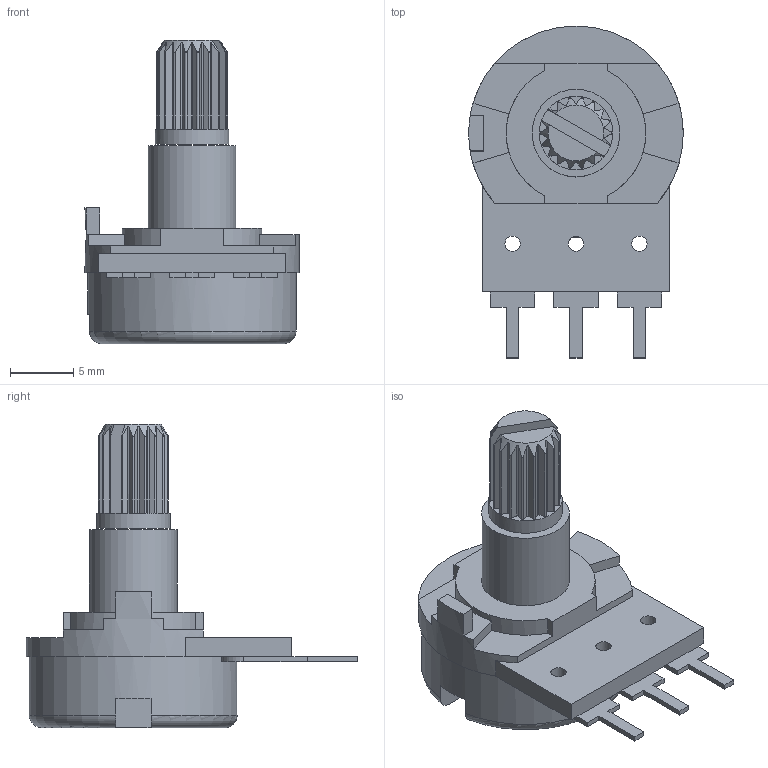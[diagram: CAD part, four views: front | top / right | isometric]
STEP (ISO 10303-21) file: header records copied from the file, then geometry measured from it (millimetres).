
FILE_DESCRIPTION(/* description */ (''),/* implementation_level */ '2;1');
FILE_NAME(/* name */ 'WH148 PH1 Single-Joint Potentiometer .step',/* time_stamp */ '2026-05-27T12:51:36-07:00',/* author */ (''),/* organization */ (''),/* preprocessor_version */ 'ST-DEVELOPER v20.1',/* originating_system */ 'Autodesk Translation Framework v15.8.0.0',/* authorisation */ '');
FILE_SCHEMA (('AUTOMOTIVE_DESIGN { 1 0 10303 214 3 1 1 }'));
Length unit declared in the file: millimetre
Products named in the file (3): WH148 PH1 Single-Joint Potentiometer; Base; Knob
Assembly tree (2 placements, depth 2):
  WH148 PH1 Single-Joint Potentiometer
    Base
    Knob
Bounding box: 16.9 x 26.15 x 23.9 mm (x, y, z)
Volume: 2281.1 mm3; surface area: 1625.1 mm2
Topology: 2 solids, 2 shells, 149 faces, 432 edges, 289 vertices
Faces by surface type: plane 99, cylinder 47, cone 2, torus 1
Full cylindrical faces by diameter (mm): 1.2 x3, 5.8 x1, 6.908 x1, 16.4 x1
Entity records: 5457 total; most frequent: CARTESIAN_POINT 1517, ORIENTED_EDGE 864, DIRECTION 758, EDGE_CURVE 432, VERTEX_POINT 289, LINE 266, VECTOR 266, AXIS2_PLACEMENT_3D 246
